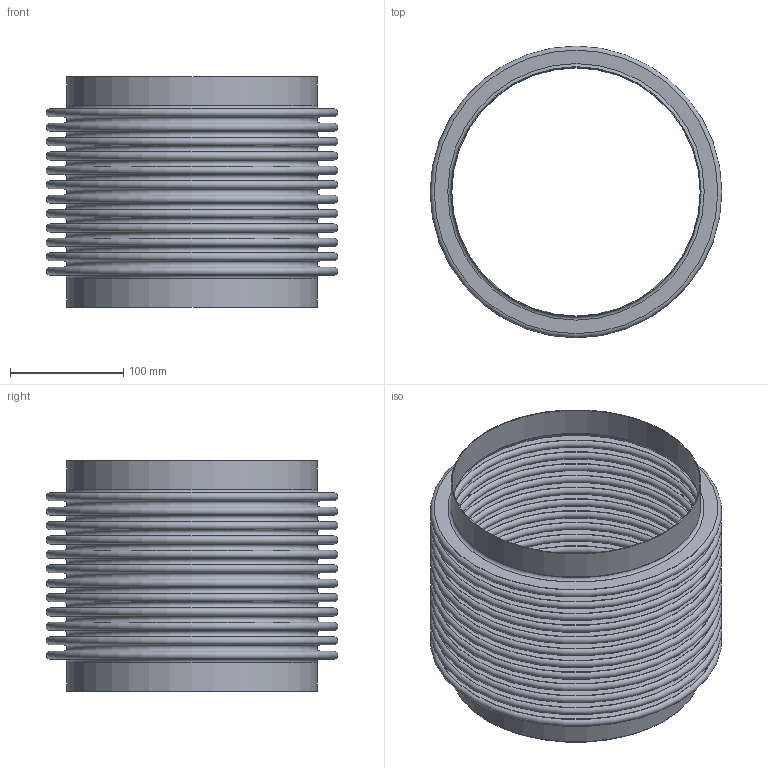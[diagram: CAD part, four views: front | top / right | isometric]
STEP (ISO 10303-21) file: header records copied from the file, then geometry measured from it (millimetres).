
FILE_DESCRIPTION(/* description */ (''),/* implementation_level */ '2;1');
FILE_NAME(/* name */ 'US-8-12-85L.stp',/* time_stamp */ '2026-07-21T11:12:48-05:00',/* author */ ('linda'),/* organization */ (''),/* preprocessor_version */ 'ST-DEVELOPER v20.1',/* originating_system */ 'Autodesk Inventor 2026',/* authorisation */ '');
FILE_SCHEMA (('AUTOMOTIVE_DESIGN { 1 0 10303 214 3 1 1 }'));
Length unit declared in the file: inch
Products named in the file (1): Part3
Bounding box: 257.18 x 257.18 x 203.2 mm (x, y, z)
Volume: 326522.3 mm3; surface area: 860171.4 mm2
Topology: 3 solids, 3 shells, 108 faces, 162 edges, 109 vertices
Faces by surface type: plane 54, torus 50, cylinder 4
Full cylindrical faces by diameter (mm): 219.075 x2, 220.599 x2
Entity records: 2667 total; most frequent: DIRECTION 538, CARTESIAN_POINT 380, ORIENTED_EDGE 324, AXIS2_PLACEMENT_3D 267, EDGE_LOOP 162, EDGE_CURVE 162, CIRCLE 158, STYLED_ITEM 111
